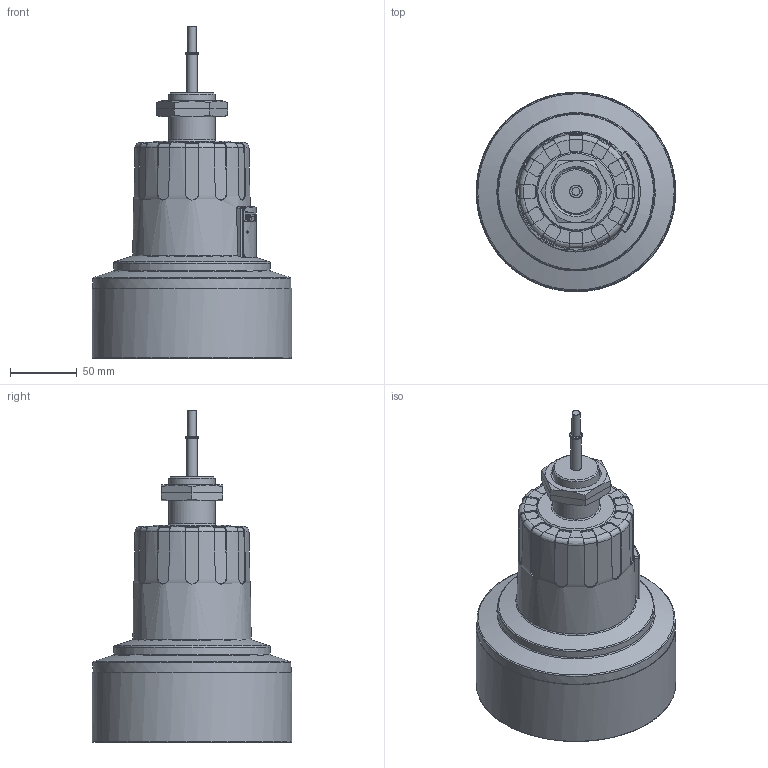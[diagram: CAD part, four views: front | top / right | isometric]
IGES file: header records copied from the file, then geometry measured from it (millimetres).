
Global section: file name: SP_320; native system: Autodesk Inventor 2015; preprocessor: unknown; author: aantal; date: 20150623.094528; units: millimetre
Bounding box: 148.99 x 148.99 x 248 mm (x, y, z)
Volume: 1680262.1 mm3; surface area: 146601.3 mm2
Topology: 5 solids, 5 shells, 297 faces, 783 edges, 515 vertices
Faces by surface type: bspline 297
